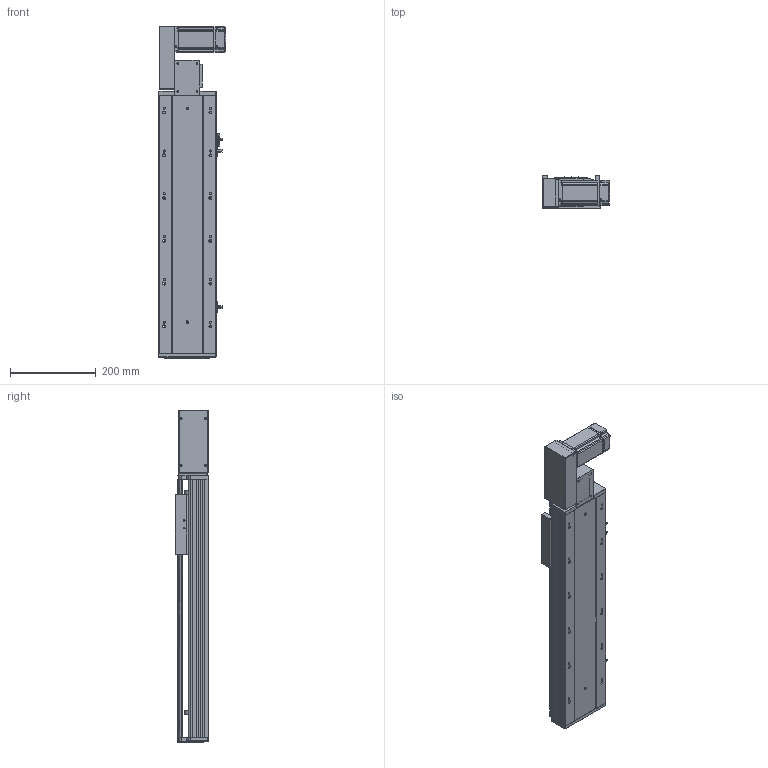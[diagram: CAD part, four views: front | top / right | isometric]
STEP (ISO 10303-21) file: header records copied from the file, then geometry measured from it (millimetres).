
FILE_DESCRIPTION (( 'STEP AP203' ), '1' );
FILE_NAME ('RY140-T-300-LK.SLDASM_350.step', '2021-03-01T06:34:39', ( '盈信电脑' ), ( '东莞市道滘镇水果街19号' ), 'SwSTEP 2.0', 'SolidWorks 2012', '' );
FILE_SCHEMA (( 'CONFIG_CONTROL_DESIGN' ));
Length unit declared in the file: millimetre
Products named in the file (18): RY140-T翋肮謫裔啣; RY140-T-300-LK.SLDASM_350; 滅袉蝶18-10; RY140-T萇儂欶; 侂狟400W侜督萇儂; RY120-T蹟翐M4; RY120-T主同步轮轴承压盖; 15; RY140-T萇儂假蚾啣; RY140-T翋肮祭謫盓傅釱; RY120-T肮祭湍揤踡輸1; RY120外置感应片(140共用）; RY120-T肮祭湍揤踡輸2; 覜茼ん672; RY140綴裔啣; RY140-T-300-DL倰第奻裔啣_350; RY140肮祭謫臏賑輸; RY140-T-300-DL倰第菁釱_350
Assembly tree (23 placements, depth 3):
  RY140-T-300-LK.SLDASM_350
    RY140-T-300-DL倰第菁釱_350
    RY140肮祭謫臏賑輸
    RY140-T-300-DL倰第奻裔啣_350
    RY140綴裔啣
    覜茼ん672  x3
    RY120外置感应片(140共用）
    RY120-T肮祭湍揤踡輸2
    RY120-T肮祭湍揤踡輸1
    RY140-T翋肮祭謫盓傅釱
    RY140-T萇儂假蚾啣
    侂狟400W侜督萇儂
      15
    RY120-T主同步轮轴承压盖
    RY120-T蹟翐M4  x4
    RY140-T萇儂欶
    滅袉蝶18-10  x2
    RY140-T翋肮謫裔啣
Bounding box: 157 x 78 x 776.5 mm (x, y, z)
Volume: 2440118.5 mm3; surface area: 890014.7 mm2
Topology: 22 solids, 22 shells, 2567 faces, 7017 edges, 4528 vertices
Faces by surface type: plane 1381, cylinder 908, cone 178, bspline 100
Entity records: 81273 total; most frequent: CARTESIAN_POINT 19923, ORIENTED_EDGE 12602, DIRECTION 11925, EDGE_CURVE 6301, VERTEX_POINT 4127, LINE 4093, VECTOR 4093, AXIS2_PLACEMENT_3D 3916
